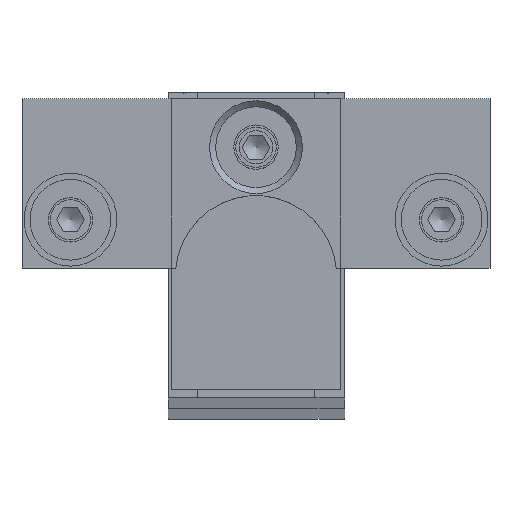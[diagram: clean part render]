
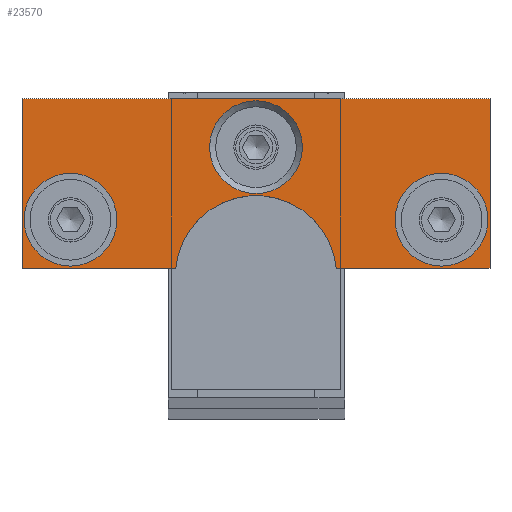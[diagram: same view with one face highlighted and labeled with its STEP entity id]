
A CAD part, top view. The second image highlights one B-rep face of the part: STEP entity #23570.
In plain terms, the highlighted planar face has unit normal (0, 0, 1).
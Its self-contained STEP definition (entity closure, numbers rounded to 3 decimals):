
#319=FACE_BOUND('',#3091,.T.);
#320=FACE_BOUND('',#3092,.T.);
#321=FACE_BOUND('',#3093,.T.);
#661=PLANE('',#25450);
#1709=FACE_OUTER_BOUND('',#3090,.T.);
#3090=EDGE_LOOP('',(#16260,#16261,#16262,#16263,#16264,#16265));
#3091=EDGE_LOOP('',(#16266));
#3092=EDGE_LOOP('',(#16267));
#3093=EDGE_LOOP('',(#16268));
#4877=LINE('',#40141,#5776);
#4878=LINE('',#40143,#5777);
#4879=LINE('',#40145,#5778);
#4880=LINE('',#40149,#5779);
#4881=LINE('',#40150,#5780);
#5776=VECTOR('',#29907,10.);
#5777=VECTOR('',#29908,10.);
#5778=VECTOR('',#29909,10.);
#5779=VECTOR('',#29912,10.);
#5780=VECTOR('',#29913,10.);
#6882=CIRCLE('',#25448,5.75);
#6884=CIRCLE('',#25451,10.);
#6885=CIRCLE('',#25452,5.75);
#6886=CIRCLE('',#25453,5.75);
#9232=VERTEX_POINT('',#40133);
#9234=VERTEX_POINT('',#40139);
#9235=VERTEX_POINT('',#40140);
#9236=VERTEX_POINT('',#40142);
#9237=VERTEX_POINT('',#40144);
#9238=VERTEX_POINT('',#40146);
#9239=VERTEX_POINT('',#40148);
#9240=VERTEX_POINT('',#40151);
#9241=VERTEX_POINT('',#40153);
#12025=EDGE_CURVE('',#9232,#9232,#6882,.T.);
#12028=EDGE_CURVE('',#9234,#9235,#4877,.T.);
#12029=EDGE_CURVE('',#9235,#9236,#4878,.T.);
#12030=EDGE_CURVE('',#9236,#9237,#4879,.T.);
#12031=EDGE_CURVE('',#9237,#9238,#6884,.T.);
#12032=EDGE_CURVE('',#9238,#9239,#4880,.T.);
#12033=EDGE_CURVE('',#9239,#9234,#4881,.T.);
#12034=EDGE_CURVE('',#9240,#9240,#6885,.T.);
#12035=EDGE_CURVE('',#9241,#9241,#6886,.T.);
#16260=ORIENTED_EDGE('',*,*,#12028,.T.);
#16261=ORIENTED_EDGE('',*,*,#12029,.T.);
#16262=ORIENTED_EDGE('',*,*,#12030,.T.);
#16263=ORIENTED_EDGE('',*,*,#12031,.T.);
#16264=ORIENTED_EDGE('',*,*,#12032,.T.);
#16265=ORIENTED_EDGE('',*,*,#12033,.T.);
#16266=ORIENTED_EDGE('',*,*,#12034,.F.);
#16267=ORIENTED_EDGE('',*,*,#12035,.F.);
#16268=ORIENTED_EDGE('',*,*,#12025,.F.);
#23570=ADVANCED_FACE('',(#1709,#319,#320,#321),#661,.T.);
#25448=AXIS2_PLACEMENT_3D('',#40134,#29900,#29901);
#25450=AXIS2_PLACEMENT_3D('',#40138,#29905,#29906);
#25451=AXIS2_PLACEMENT_3D('',#40147,#29910,#29911);
#25452=AXIS2_PLACEMENT_3D('',#40152,#29914,#29915);
#25453=AXIS2_PLACEMENT_3D('',#40154,#29916,#29917);
#29900=DIRECTION('center_axis',(0.,0.,
1.));
#29901=DIRECTION('ref_axis',(-1.,0.,0.));
#29905=DIRECTION('center_axis',(0.,0.,
1.));
#29906=DIRECTION('ref_axis',(1.,0.,0.));
#29907=DIRECTION('',(-1.,0.,0.));
#29908=DIRECTION('',(0.,-1.,0.));
#29909=DIRECTION('',(1.,0.,0.));
#29910=DIRECTION('center_axis',(0.,0.,
-1.));
#29911=DIRECTION('ref_axis',(0.995,0.1,0.));
#29912=DIRECTION('',(1.,0.,0.));
#29913=DIRECTION('',(0.,1.,0.));
#29914=DIRECTION('center_axis',(0.,0.,
1.));
#29915=DIRECTION('ref_axis',(-1.,0.,0.));
#29916=DIRECTION('center_axis',(0.,0.,
1.));
#29917=DIRECTION('ref_axis',(-1.,0.,0.));
#40133=CARTESIAN_POINT('',(39.65,22.,416.));
#40134=CARTESIAN_POINT('Origin',(33.9,22.,416.));
#40138=CARTESIAN_POINT('Origin',(10.9,27.153,416.));
#40139=CARTESIAN_POINT('',(39.9,37.,416.));
#40140=CARTESIAN_POINT('',(-18.1,37.,416.));
#40141=CARTESIAN_POINT('',(-18.1,37.,416.));
#40142=CARTESIAN_POINT('',(-18.1,16.,416.));
#40143=CARTESIAN_POINT('',(-18.1,16.,416.));
#40144=CARTESIAN_POINT('',(0.95,16.,416.));
#40145=CARTESIAN_POINT('',(0.95,16.,416.));
#40146=CARTESIAN_POINT('',(20.85,16.,416.));
#40147=CARTESIAN_POINT('Origin',(10.9,15.,416.));
#40148=CARTESIAN_POINT('',(39.9,16.,416.));
#40149=CARTESIAN_POINT('',(39.9,16.,416.));
#40150=CARTESIAN_POINT('',(39.9,37.,416.));
#40151=CARTESIAN_POINT('',(16.65,31.,416.));
#40152=CARTESIAN_POINT('Origin',(10.9,31.,416.));
#40153=CARTESIAN_POINT('',(-6.35,22.,416.));
#40154=CARTESIAN_POINT('Origin',(-12.1,22.,416.));
